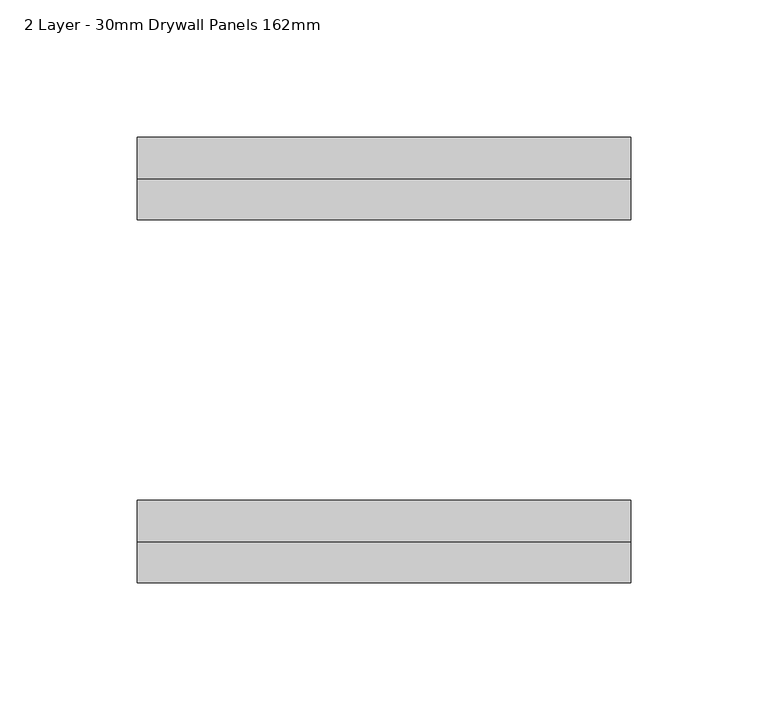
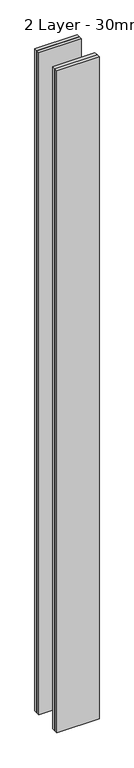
"""IFC4 building model written with IfcOpenShell, lengths in millimetres: plate geometry, 4 LayerS - Drywall Panels : 2 Layer - 30mm Drywall Panels 162mm."""

from ifc_helpers import new_model, si_unit, origin, origin_with_axes, place, context, project, spatial, polyline, outline, extrude, source, transform, mapped, element, save


def plate_2_layer_30mm_drywall_panels_162mm_94d5aa89(model_context):
    return source(origin(), model_context, "Body", "SweptSolid", [
        extrude(outline(polyline([(89.6999998, 66.0), (-89.6999998, 66.0), (-89.6999998, 81.0), (89.6999998, 81.0), (89.6999998, 66.0)])), origin_with_axes(), (0.0, 0.0, 1.0), 2979.4),
        extrude(outline(polyline([(89.6999998, -66.0), (-89.6999998, -66.0), (-89.6999998, -51.0), (89.6999998, -51.0), (89.6999998, -66.0)])), origin_with_axes(), (0.0, 0.0, 1.0), 2979.4),
        extrude(outline(polyline([(89.6999998, 51.0), (-89.6999998, 51.0), (-89.6999998, 66.0), (89.6999998, 66.0), (89.6999998, 51.0)])), origin_with_axes(), (0.0, 0.0, 1.0), 2979.4),
        extrude(outline(polyline([(89.6999998, -66.0), (89.6999998, -81.0), (-89.6999998, -81.0), (-89.6999998, -66.0), (89.6999998, -66.0)])), origin_with_axes(), (0.0, 0.0, 1.0), 2979.4),
    ])


if __name__ == "__main__":
    model = new_model("IFC4")
    model_context = context("Model", 3, world=origin())
    ifc_project = project(units=[si_unit("LENGTHUNIT", "METRE", prefix="MILLI")], contexts=[model_context])
    site = spatial("IfcSite", under=ifc_project)
    building = spatial("IfcBuilding", under=site)
    placement = place(None, origin())
    plate_2_layer_30mm_drywall_panels_162mm_shape = plate_2_layer_30mm_drywall_panels_162mm_94d5aa89(model_context)
    element("IfcPlate", 1, ObjectType="4 LayerS - Drywall Panels : 2 Layer - 30mm Drywall Panels 162mm", at=placement, inside=building, context=model_context, shape_type="MappedRepresentation", body=[
        mapped(plate_2_layer_30mm_drywall_panels_162mm_shape, transform((0.0, 0.0, 0.0), x_axis=(1.0, 0.0, 0.0), y_axis=(0.0, 1.0, 0.0), z_axis=(0.0, 0.0, 1.0))),
    ])
    save(model, "model.ifc")
